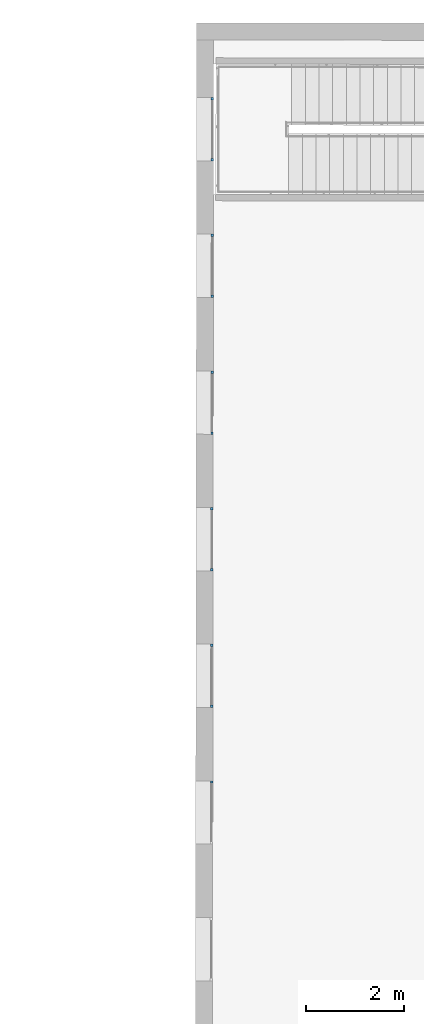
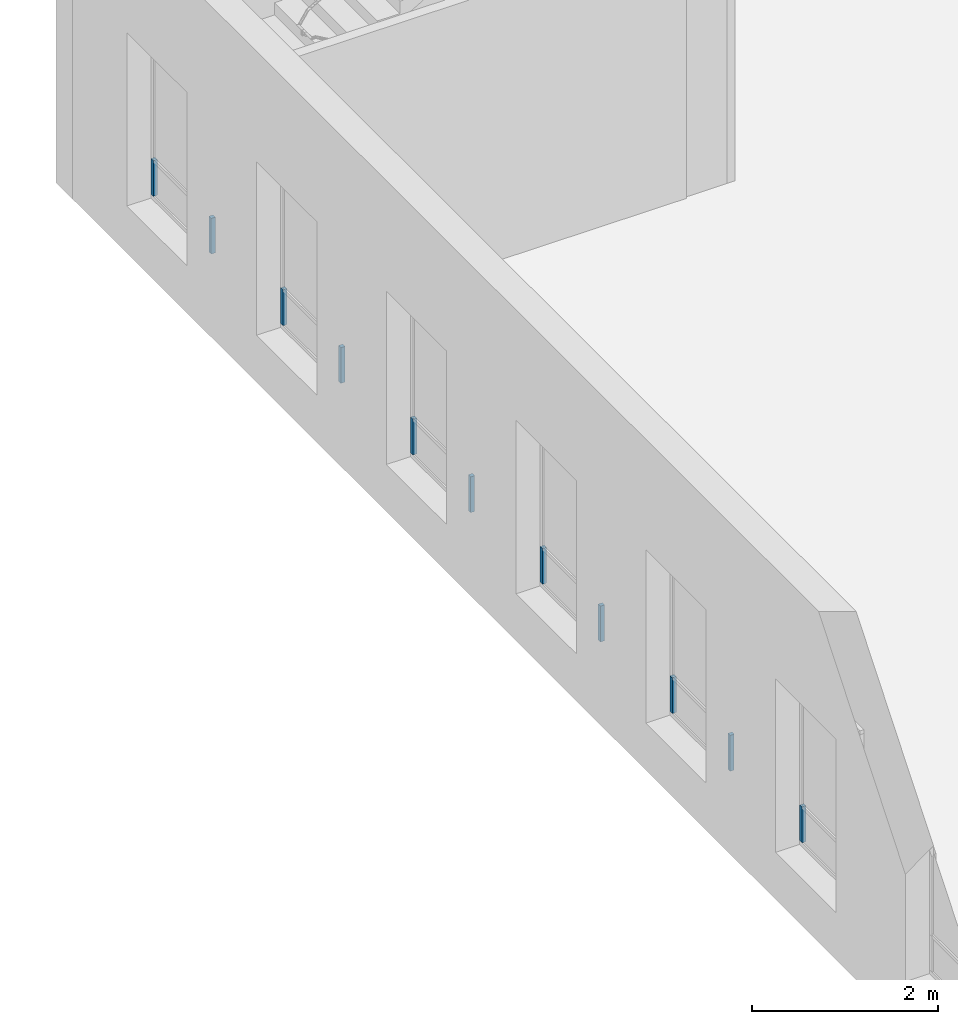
# One storey, part 22 of 35: 11 members, 6 elements without a shape of their own.
"""IFC2X3 building model written with IfcOpenShell, lengths in metres."""

from ifc_helpers import new_model, entity, si_unit, converted_unit, derived_unit, direction, frame, origin, origin_2d_with_axis, place, context, subcontext, project, spatial, rectangle, extrude, source, transform, mapped, material, type_object, type_shapes, element, aggregate, save


model = new_model("IFC2X3")

# Units and contexts
model_context = context("Model", 3, precision=1e-05, world=origin(), true_north=direction((6.123233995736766e-17, 1.0)))
body_context = subcontext(model_context, "Body", "Model", "MODEL_VIEW")
ifc_project = project(units=[si_unit("LENGTHUNIT", "METRE"), si_unit("AREAUNIT", "SQUARE_METRE"), converted_unit("PLANEANGLEUNIT", "DEGREE", entity("IfcPlaneAngleMeasure", 0.017453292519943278), si_unit("PLANEANGLEUNIT", "RADIAN"), dimensions=[0, 0, 0, 0, 0, 0, 0]), derived_unit("THERMALTRANSMITTANCEUNIT", [(si_unit("MASSUNIT", "GRAM", prefix="KILO"), 1), (si_unit("THERMODYNAMICTEMPERATUREUNIT", "KELVIN"), -1), (si_unit("TIMEUNIT", "SECOND"), -3)])], contexts=[model_context])

# Site, building, storey
site_placement = place(None, frame((1253.6752467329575, 2072.143113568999, 91.49999999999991), z_axis=(0.0, 0.0, 1.0), x_axis=(0.7237211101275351, 0.6900925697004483, 0.0)))
site = spatial("IfcSite", under=ifc_project, at=site_placement, Name="Surface", CompositionType="ELEMENT")
building_placement = place(site_placement, origin())
building = spatial("IfcBuilding", under=site, at=building_placement, CompositionType="ELEMENT")
storey_placement = place(building_placement, frame((0.0, 0.0, 3.549999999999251)))
storey = spatial("IfcBuildingStorey", under=building, at=storey_placement, Name="1-R+1", CompositionType="ELEMENT", Elevation=3.549999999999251)

# Curtain wall, member
curtain_wall_type = type_object("IfcCurtainWallType", Name="Mur-rideau:Menuiserie Ext 1F+1OB VERTIC", PredefinedType="NOTDEFINED")
curtain_wall_1_placement = place(storey_placement, frame((0.0, 0.0, -3.549999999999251)))
curtain_wall_1 = element("IfcCurtainWall", 1, at=curtain_wall_1_placement, inside=storey, type_object=curtain_wall_type, Name="Mur-rideau:Menuiserie Ext 1F+1OB VERTIC", ObjectType="Mur-rideau:Menuiserie Ext 1F+1OB VERTIC")
ifc_material = material(Name="OMD_Aluminium Men Ext")
member_type_1 = type_object("IfcMemberType", Name="Meneau rectangulaire:50x50", PredefinedType="MULLION", material=ifc_material)
shared_shape_1 = source(origin(), body_context, "Body", "SweptSolid", [
    extrude(rectangle(XDim=0.05, YDim=0.049999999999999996, at=origin_2d_with_axis()), frame((-0.025, 0.0, -0.4699999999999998), z_axis=(0.0, 0.0, 1.0), x_axis=(-1.0, 0.0, 0.0)), (0.0, 0.0, 1.0), 0.4699999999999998),
])
type_shapes(member_type_1, [shared_shape_1])
member_1_placement = place(curtain_wall_1_placement, frame((190.7788656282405, 2.115108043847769, 4.219999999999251), z_axis=(0.0, 0.0, -1.0), x_axis=(0.6909838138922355, 0.7228702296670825, 0.0)))
member_1 = element("IfcMember", 2, at=member_1_placement, type_object=member_type_1, material=ifc_material, Name="Meneau rectangulaire:50x50", ObjectType="Meneau rectangulaire:50x50", context=body_context, shape_type="MappedRepresentation", body=[
    mapped(shared_shape_1, transform((0.0, 0.0, 0.0), scale=1.0)),
])

curtain_wall_2_placement = place(storey_placement, frame((0.0, 0.0, -3.549999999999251)))
curtain_wall_2 = element("IfcCurtainWall", 3, at=curtain_wall_2_placement, inside=storey, type_object=curtain_wall_type, Name="Mur-rideau:Menuiserie Ext 1F+1OB VERTIC", ObjectType="Mur-rideau:Menuiserie Ext 1F+1OB VERTIC")
member_2_placement = place(curtain_wall_2_placement, frame((188.84432107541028, 0.09129122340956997, 4.219999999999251), z_axis=(0.0, 0.0, -1.0), x_axis=(0.6909838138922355, 0.7228702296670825, 0.0)))
member_2 = element("IfcMember", 4, at=member_2_placement, type_object=member_type_1, material=ifc_material, Name="Meneau rectangulaire:50x50", ObjectType="Meneau rectangulaire:50x50", context=body_context, shape_type="MappedRepresentation", body=[
    mapped(shared_shape_1, transform((0.0, 0.0, 0.0), scale=1.0)),
])

curtain_wall_3_placement = place(storey_placement, frame((0.0, 0.0, -3.549999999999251)))
curtain_wall_3 = element("IfcCurtainWall", 5, at=curtain_wall_3_placement, inside=storey, type_object=curtain_wall_type, Name="Mur-rideau:Menuiserie Ext 1F+1OB VERTIC", ObjectType="Mur-rideau:Menuiserie Ext 1F+1OB VERTIC")
member_3_placement = place(curtain_wall_3_placement, frame((186.9095663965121, -1.9327454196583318, 4.219999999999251), z_axis=(0.0, 0.0, -1.0), x_axis=(0.6909838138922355, 0.7228702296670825, 0.0)))
member_3 = element("IfcMember", 6, at=member_3_placement, type_object=member_type_1, material=ifc_material, Name="Meneau rectangulaire:50x50", ObjectType="Meneau rectangulaire:50x50", context=body_context, shape_type="MappedRepresentation", body=[
    mapped(shared_shape_1, transform((0.0, 0.0, 0.0), scale=1.0)),
])

curtain_wall_4_placement = place(storey_placement, frame((0.0, 0.0, -3.549999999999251)))
curtain_wall_4 = element("IfcCurtainWall", 7, at=curtain_wall_4_placement, inside=storey, type_object=curtain_wall_type, Name="Mur-rideau:Menuiserie Ext 1F+1OB VERTIC", ObjectType="Mur-rideau:Menuiserie Ext 1F+1OB VERTIC")
member_4_placement = place(curtain_wall_4_placement, frame((184.97481171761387, -3.9567820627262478, 4.219999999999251), z_axis=(0.0, 0.0, -1.0), x_axis=(0.6909838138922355, 0.7228702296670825, 0.0)))
member_4 = element("IfcMember", 8, at=member_4_placement, type_object=member_type_1, material=ifc_material, Name="Meneau rectangulaire:50x50", ObjectType="Meneau rectangulaire:50x50", context=body_context, shape_type="MappedRepresentation", body=[
    mapped(shared_shape_1, transform((0.0, 0.0, 0.0), scale=1.0)),
])

curtain_wall_5_placement = place(storey_placement, frame((0.0, 0.0, -3.549999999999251)))
curtain_wall_5 = element("IfcCurtainWall", 9, at=curtain_wall_5_placement, inside=storey, type_object=curtain_wall_type, Name="Mur-rideau:Menuiserie Ext 1F+1OB VERTIC", ObjectType="Mur-rideau:Menuiserie Ext 1F+1OB VERTIC")
member_5_placement = place(curtain_wall_5_placement, frame((183.0400570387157, -5.980818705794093, 4.219999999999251), z_axis=(0.0, 0.0, -1.0), x_axis=(0.6909838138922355, 0.7228702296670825, 0.0)))
member_5 = element("IfcMember", 10, at=member_5_placement, type_object=member_type_1, material=ifc_material, Name="Meneau rectangulaire:50x50", ObjectType="Meneau rectangulaire:50x50", context=body_context, shape_type="MappedRepresentation", body=[
    mapped(shared_shape_1, transform((0.0, 0.0, 0.0), scale=1.0)),
])

curtain_wall_6_placement = place(storey_placement, frame((0.0, 0.0, -3.549999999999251)))
curtain_wall_6 = element("IfcCurtainWall", 11, at=curtain_wall_6_placement, inside=storey, type_object=curtain_wall_type, Name="Mur-rideau:Menuiserie Ext 1F+1OB VERTIC", ObjectType="Mur-rideau:Menuiserie Ext 1F+1OB VERTIC")
member_6_placement = place(curtain_wall_6_placement, frame((181.10530235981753, -8.004855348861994, 4.219999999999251), z_axis=(0.0, 0.0, -1.0), x_axis=(0.6909838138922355, 0.7228702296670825, 0.0)))
member_6 = element("IfcMember", 12, at=member_6_placement, type_object=member_type_1, material=ifc_material, Name="Meneau rectangulaire:50x50", ObjectType="Meneau rectangulaire:50x50", context=body_context, shape_type="MappedRepresentation", body=[
    mapped(shared_shape_1, transform((0.0, 0.0, 0.0), scale=1.0)),
])
aggregate(curtain_wall_6, [member_6])

# Member
member_type_2 = type_object("IfcMemberType", Name="Meneau rectangulaire:50x50", PredefinedType="MULLION", material=ifc_material)
shared_shape_2 = source(origin(), body_context, "Body", "SweptSolid", [
    extrude(rectangle(XDim=0.05, YDim=0.049999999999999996, at=origin_2d_with_axis()), frame((-0.025, 0.0, -0.4699999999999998), z_axis=(0.0, 0.0, 1.0), x_axis=(-1.0, 0.0, 0.0)), (0.0, 0.0, 1.0), 0.4699999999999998),
])
type_shapes(member_type_2, [shared_shape_2])
member_7_placement = place(curtain_wall_1_placement, frame((189.8807967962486, 1.17559656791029, 4.689999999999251), z_axis=(0.0, 0.0, 1.0), x_axis=(-0.6909838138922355, -0.7228702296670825, 0.0)))
member_7 = element("IfcMember", 13, at=member_7_placement, type_object=member_type_2, material=ifc_material, Name="Meneau rectangulaire:50x50", ObjectType="Meneau rectangulaire:50x50", context=body_context, shape_type="MappedRepresentation", body=[
    mapped(shared_shape_2, transform((0.0, 0.0, 0.0), scale=1.0)),
])

aggregate(curtain_wall_1, [member_1, member_7])

member_8_placement = place(curtain_wall_2_placement, frame((187.94625224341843, -0.8482202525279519, 4.689999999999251), z_axis=(0.0, 0.0, 1.0), x_axis=(-0.6909838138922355, -0.7228702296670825, 0.0)))
member_8 = element("IfcMember", 14, at=member_8_placement, type_object=member_type_2, material=ifc_material, Name="Meneau rectangulaire:50x50", ObjectType="Meneau rectangulaire:50x50", context=body_context, shape_type="MappedRepresentation", body=[
    mapped(shared_shape_2, transform((0.0, 0.0, 0.0), scale=1.0)),
])

aggregate(curtain_wall_2, [member_2, member_8])

member_9_placement = place(curtain_wall_3_placement, frame((186.01149756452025, -2.8722568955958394, 4.689999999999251), z_axis=(0.0, 0.0, 1.0), x_axis=(-0.6909838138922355, -0.7228702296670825, 0.0)))
member_9 = element("IfcMember", 15, at=member_9_placement, type_object=member_type_2, material=ifc_material, Name="Meneau rectangulaire:50x50", ObjectType="Meneau rectangulaire:50x50", context=body_context, shape_type="MappedRepresentation", body=[
    mapped(shared_shape_2, transform((0.0, 0.0, 0.0), scale=1.0)),
])

aggregate(curtain_wall_3, [member_3, member_9])

member_10_placement = place(curtain_wall_4_placement, frame((184.07674288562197, -4.896293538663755, 4.689999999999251), z_axis=(0.0, 0.0, 1.0), x_axis=(-0.6909838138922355, -0.7228702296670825, 0.0)))
member_10 = element("IfcMember", 16, at=member_10_placement, type_object=member_type_2, material=ifc_material, Name="Meneau rectangulaire:50x50", ObjectType="Meneau rectangulaire:50x50", context=body_context, shape_type="MappedRepresentation", body=[
    mapped(shared_shape_2, transform((0.0, 0.0, 0.0), scale=1.0)),
])

aggregate(curtain_wall_4, [member_4, member_10])

member_11_placement = place(curtain_wall_5_placement, frame((182.1419882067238, -6.9203301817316, 4.689999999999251), z_axis=(0.0, 0.0, 1.0), x_axis=(-0.6909838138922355, -0.7228702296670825, 0.0)))
member_11 = element("IfcMember", 17, at=member_11_placement, type_object=member_type_2, material=ifc_material, Name="Meneau rectangulaire:50x50", ObjectType="Meneau rectangulaire:50x50", context=body_context, shape_type="MappedRepresentation", body=[
    mapped(shared_shape_2, transform((0.0, 0.0, 0.0), scale=1.0)),
])

aggregate(curtain_wall_5, [member_5, member_11])

save(model, "model.ifc")
